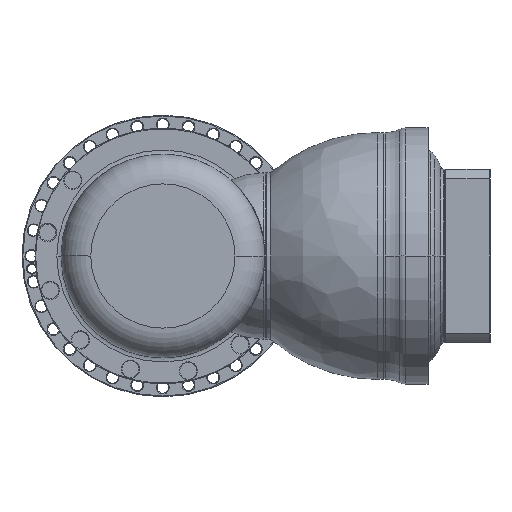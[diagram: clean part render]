
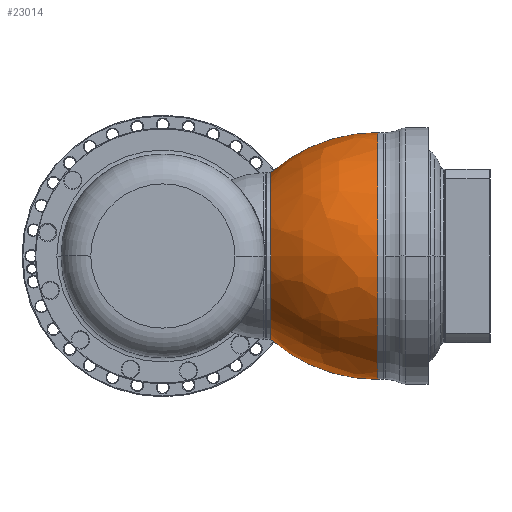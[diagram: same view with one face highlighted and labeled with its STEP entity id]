
A CAD part, left-side view. The second image highlights one B-rep face of the part: STEP entity #23014.
In plain terms, the highlighted free-form (B-spline) face has degree [3, 3] with [7, 4] control points.
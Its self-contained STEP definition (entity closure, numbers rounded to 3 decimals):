
#22720=CARTESIAN_POINT('',(-7.,0.,0.));
#22721=DIRECTION('',(1.,0.,0.));
#22722=DIRECTION('',(0.,-1.,0.));
#22723=AXIS2_PLACEMENT_3D('',#22720,#22721,#22722);
#22744=CARTESIAN_POINT('',(-7.,-45.366,0.));
#22745=DIRECTION('',(0.,0.,-1.));
#22746=DIRECTION('',(-0.659,0.752,0.));
#22747=AXIS2_PLACEMENT_3D('',#22744,#22745,#22746);
#22749=CARTESIAN_POINT('',(-7.,45.366,0.));
#22750=DIRECTION('',(0.,0.,1.));
#22751=DIRECTION('',(-0.659,-0.752,0.));
#22752=AXIS2_PLACEMENT_3D('',#22749,#22750,#22751);
#22764=CARTESIAN_POINT('',(-132.859,0.,0.));
#22765=DIRECTION('',(-1.,0.,0.));
#22766=DIRECTION('',(0.,1.,0.));
#22767=AXIS2_PLACEMENT_3D('',#22764,#22765,#22766);
#22815=CARTESIAN_POINT('',(-7.,145.5,0.));
#22816=CARTESIAN_POINT('',(-7.,-145.5,0.));
#22817=VERTEX_POINT('',#22815);
#22818=VERTEX_POINT('',#22816);
#22819=CARTESIAN_POINT('',(-132.859,98.124,0.));
#22820=CARTESIAN_POINT('',(-132.859,-98.124,
0.));
#22821=VERTEX_POINT('',#22819);
#22822=VERTEX_POINT('',#22820);
#22979=CARTESIAN_POINT('',(-4.252,145.193,
9.135));
#22980=CARTESIAN_POINT('',(-53.037,145.894,
9.179));
#22981=CARTESIAN_POINT('',(-98.699,128.74,
8.1));
#22982=CARTESIAN_POINT('',(-134.912,96.107,
6.047));
#22983=CARTESIAN_POINT('',(-4.252,150.815,
-80.217));
#22984=CARTESIAN_POINT('',(-53.037,151.543,
-80.604));
#22985=CARTESIAN_POINT('',(-98.699,133.724,
-71.127));
#22986=CARTESIAN_POINT('',(-134.912,99.828,
-53.097));
#22987=CARTESIAN_POINT('',(-4.252,89.528,
-145.48));
#22988=CARTESIAN_POINT('',(-53.037,89.961,
-146.183));
#22989=CARTESIAN_POINT('',(-98.699,79.383,
-128.994));
#22990=CARTESIAN_POINT('',(-134.912,59.261,
-96.297));
#22991=CARTESIAN_POINT('',(-4.252,0.,-145.48));
#22992=CARTESIAN_POINT('',(-53.037,0.,
-146.183));
#22993=CARTESIAN_POINT('',(-98.699,0.,-128.994));
#22994=CARTESIAN_POINT('',(-134.912,0.,-96.297));
#22995=CARTESIAN_POINT('',(-4.252,-89.528,
-145.48));
#22996=CARTESIAN_POINT('',(-53.037,-89.961,
-146.183));
#22997=CARTESIAN_POINT('',(-98.699,-79.383,
-128.994));
#22998=CARTESIAN_POINT('',(-134.912,-59.261,
-96.297));
#22999=CARTESIAN_POINT('',(-4.252,-150.815,
-80.217));
#23000=CARTESIAN_POINT('',(-53.037,-151.543,
-80.604));
#23001=CARTESIAN_POINT('',(-98.699,-133.724,
-71.127));
#23002=CARTESIAN_POINT('',(-134.912,-99.828,
-53.097));
#23003=CARTESIAN_POINT('',(-4.252,-145.193,
9.135));
#23004=CARTESIAN_POINT('',(-53.037,-145.894,
9.179));
#23005=CARTESIAN_POINT('',(-98.699,-128.74,
8.1));
#23006=CARTESIAN_POINT('',(-134.912,-96.107,
6.047));
#23007=(BOUNDED_SURFACE()B_SPLINE_SURFACE(3,3,((#22979,#22980,#22981,#22982),(
#22983,#22984,#22985,#22986),(#22987,#22988,#22989,#22990),(#22991,#22992,
#22993,#22994),(#22995,#22996,#22997,#22998),(#22999,#23000,#23001,#23002),(
#23003,#23004,#23005,#23006)),.UNSPECIFIED.,.F.,.F.,.F.)B_SPLINE_SURFACE_WITH_KNOTS((4,3,4),(4,4),(0.,1.,2.),(0.,1.),.UNSPECIFIED.)GEOMETRIC_REPRESENTATION_ITEM()RATIONAL_B_SPLINE_SURFACE(((1.23,1.173,
1.173,1.23),(0.971,0.926,
0.926,0.971),(0.971,0.926,
0.926,0.971),(1.23,1.173,
1.173,1.23),(0.971,0.926,
0.926,0.971),(0.971,0.926,
0.926,0.971),(1.23,1.173,
1.173,1.23)))REPRESENTATION_ITEM('')SURFACE());
#23008=ORIENTED_EDGE('',*,*,#22970,.T.);
#23009=ORIENTED_EDGE('',*,*,#22945,.T.);
#23010=ORIENTED_EDGE('',*,*,#22891,.T.);
#23011=ORIENTED_EDGE('',*,*,#22942,.F.);
#23012=EDGE_LOOP('',(#23008,#23009,#23010,#23011));
#23013=FACE_OUTER_BOUND('',#23012,.F.);
#23014=ADVANCED_FACE('',(#23013),#23007,.T.);
#22724=CIRCLE('',#22723,145.5);
#22748=CIRCLE('',#22747,190.866);
#22753=CIRCLE('',#22752,190.866);
#22768=CIRCLE('',#22767,98.124);
#22891=EDGE_CURVE('',#22818,#22817,#22724,.T.);
#22942=EDGE_CURVE('',#22821,#22817,#22748,.T.);
#22945=EDGE_CURVE('',#22822,#22818,#22753,.T.);
#22970=EDGE_CURVE('',#22821,#22822,#22768,.T.);
